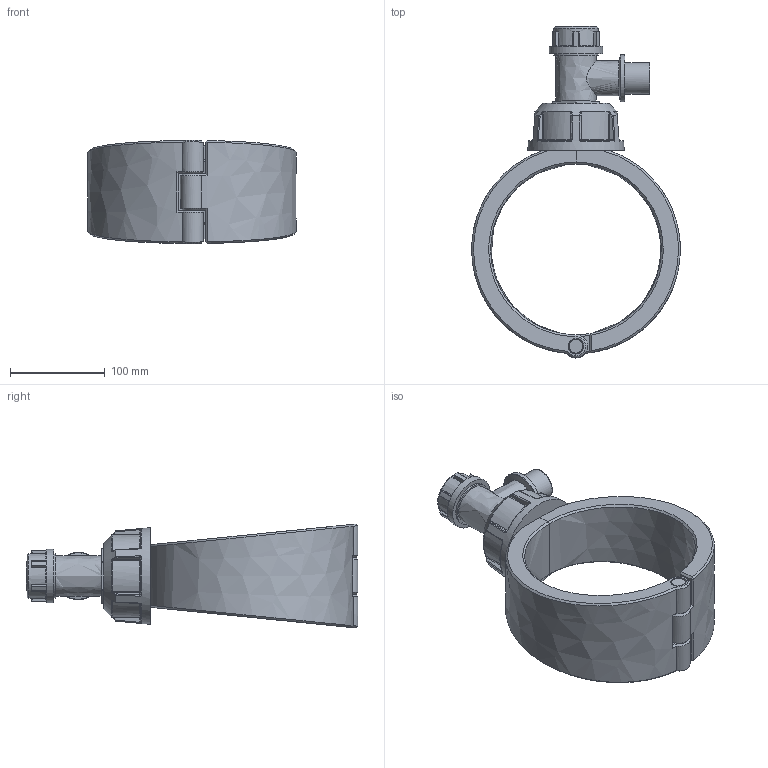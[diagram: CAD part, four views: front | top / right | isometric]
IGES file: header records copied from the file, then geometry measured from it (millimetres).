
Global section: file name: 1631R0180010; native system: Autodesk Inventor 2019; preprocessor: unknown; author: comp2; date: 20220203.120705; units: millimetre
Bounding box: 219.99 x 350 x 109.6 mm (x, y, z)
Volume: 1561235.2 mm3; surface area: 201899.1 mm2
Topology: 4 solids, 4 shells, 341 faces, 833 edges, 509 vertices
Faces by surface type: bspline 341
